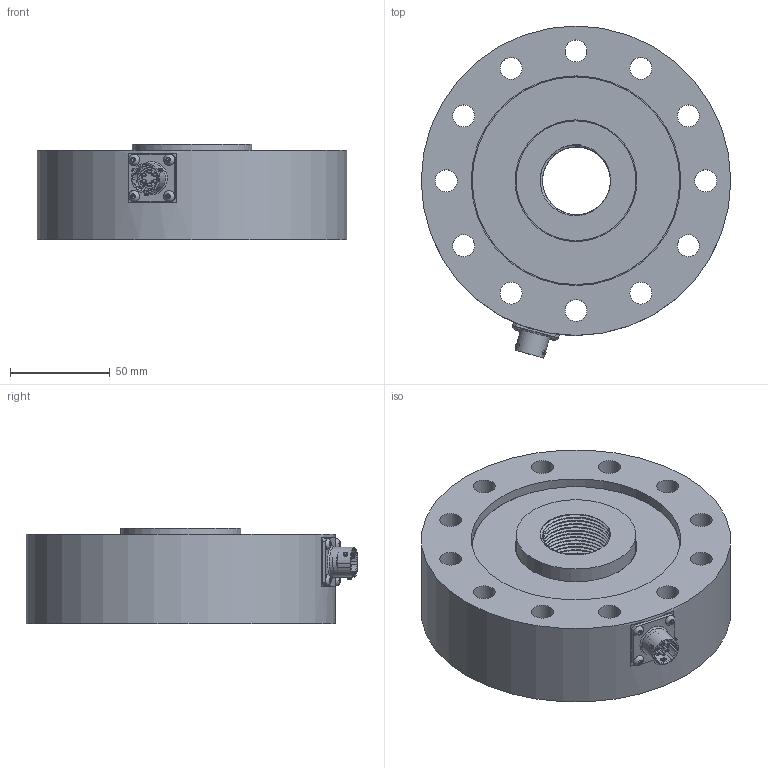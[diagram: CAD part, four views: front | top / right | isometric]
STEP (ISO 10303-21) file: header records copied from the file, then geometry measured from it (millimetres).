
FILE_DESCRIPTION(/* description */ (''),/* implementation_level */ '2;1');
FILE_NAME(/* name */ 'I:/New Datasheets/STEP Models/DSCC Size 2 Space Model v1.step',/* time_stamp */ '2018-07-23T11:50:17+01:00',/* author */ ('ollie@appmeas.co.uk'),/* organization */ (''),/* preprocessor_version */ 'ST-DEVELOPER v17',/* originating_system */ 'Autodesk Translation Framework v7.1.0.215',/* authorisation */ '');
FILE_SCHEMA (('AUTOMOTIVE_DESIGN { 1 0 10303 214 3 1 1 }'));
Length unit declared in the file: millimetre
Products named in the file (2): DSCC Size 2 Space Model v1; Component1
Assembly tree (1 placements, depth 2):
  DSCC Size 2 Space Model v1
    Component1
Bounding box: 155 x 166.27 x 48 mm (x, y, z)
Volume: 705458.7 mm3; surface area: 93439.2 mm2
Topology: 1 solids, 13 shells, 595 faces, 1571 edges, 1073 vertices
Faces by surface type: plane 251, cylinder 184, bspline 81, cone 37, torus 22, sphere 20
Full cylindrical faces by diameter (mm): 1 x3, 1.009 x6, 1.165 x6, 1.2 x6, 1.4 x6, 1.52 x3, 1.6 x3, 2 x12, 2.03 x3, 2.2 x12, 2.529 x4, 3 x4, 3.2 x4, 5 x1, 10.25 x2, 10.9 x1, 11 x12, 11.05 x1, 11.35 x1, 12.55 x1, 13.85 x1, 13.9 x1, 14 x1, 14.95 x1, 15 x1, 34.023 x24, 36.257 x24, 60 x2, 61 x2, 104 x2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
Entity records: 26941 total; most frequent: CARTESIAN_POINT 12410, ORIENTED_EDGE 3128, DIRECTION 2754, EDGE_CURVE 1564, VERTEX_POINT 1073, AXIS2_PLACEMENT_3D 1023, EDGE_LOOP 725, LINE 708
